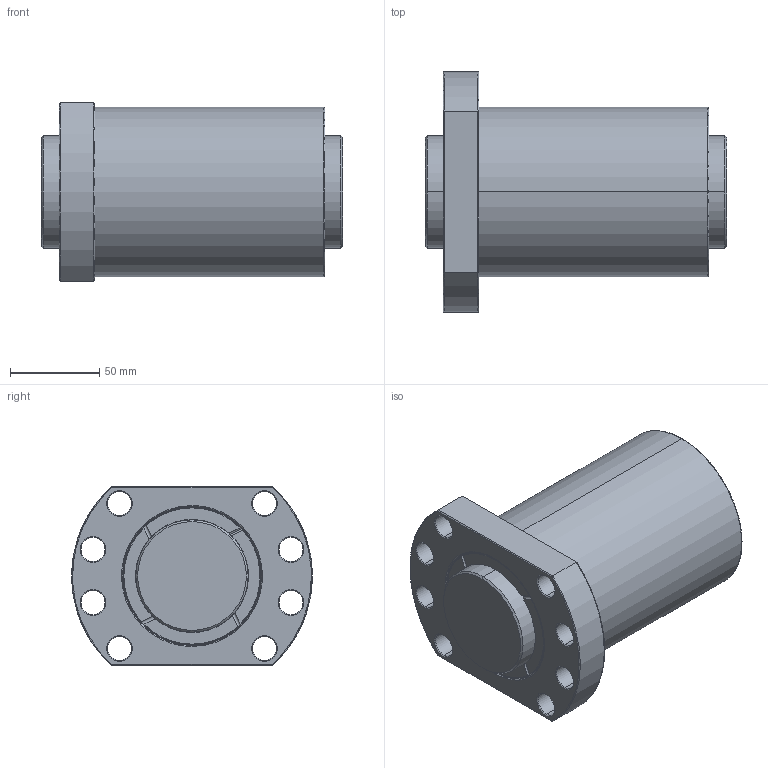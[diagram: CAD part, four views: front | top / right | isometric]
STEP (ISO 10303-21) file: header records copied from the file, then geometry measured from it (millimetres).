
FILE_DESCRIPTION (( 'STEP AP203' ), '1' );
FILE_NAME ('SFUR06320T4D-C.STEP', '2020-06-16T07:40:29', ( '' ), ( '' ), 'SwSTEP 2.0', 'SolidWorks 2013', '' );
FILE_SCHEMA (( 'CONFIG_CONTROL_DESIGN' ));
Length unit declared in the file: millimetre
Products named in the file (1): SFUR06320T4D-C
Bounding box: 169 x 135 x 100 mm (x, y, z)
Volume: 1122349.4 mm3; surface area: 143363.3 mm2
Topology: 2 solids, 3 shells, 151 faces, 371 edges, 227 vertices
Faces by surface type: cylinder 60, cone 36, bspline 30, plane 25
Entity records: 7935 total; most frequent: CARTESIAN_POINT 4439, ORIENTED_EDGE 742, DIRECTION 692, EDGE_CURVE 371, AXIS2_PLACEMENT_3D 292, VERTEX_POINT 227, EDGE_LOOP 176, CIRCLE 170
